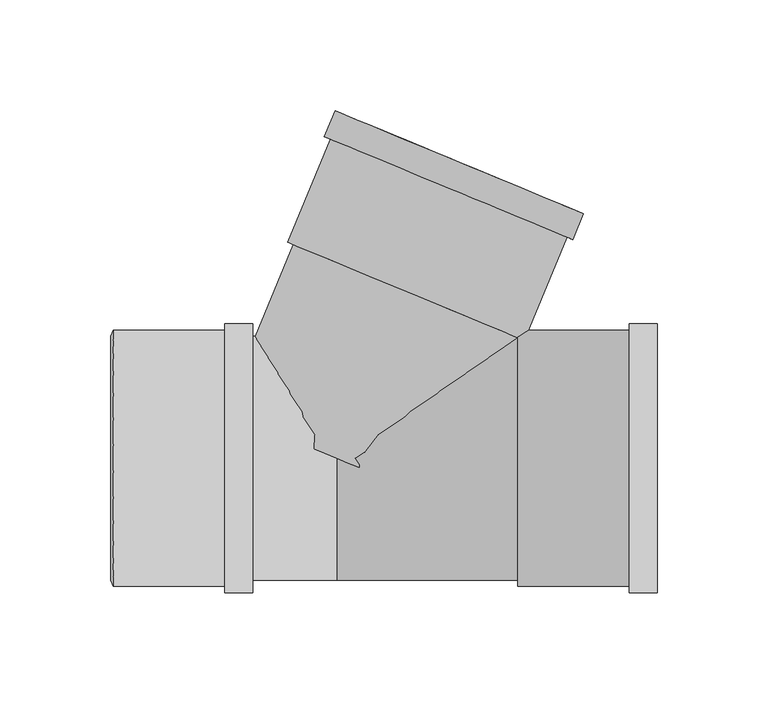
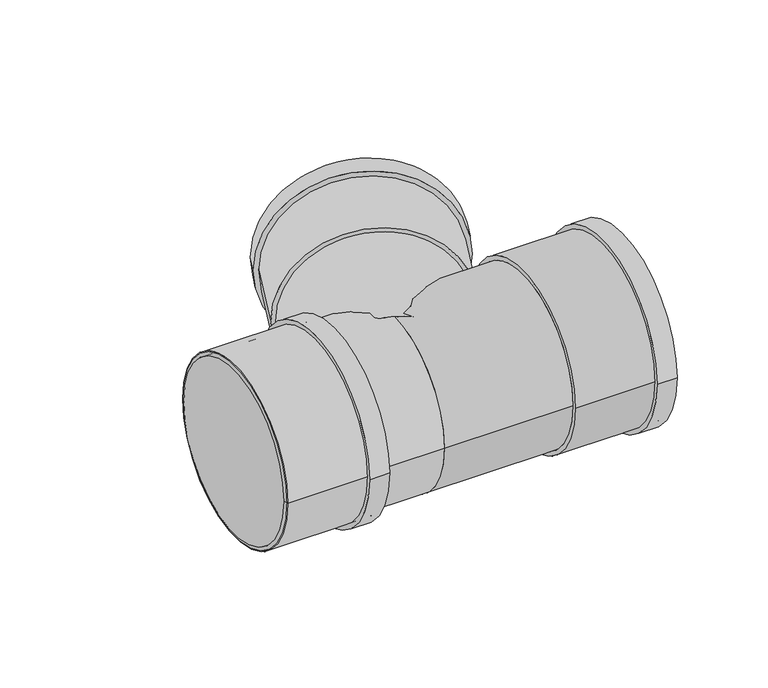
"""IFC4 building model written with IfcOpenShell, lengths in millimetres: pipe fitting geometry, Superdrain HTEA Branch : Superdrain HTEA Branch."""

from ifc_helpers import new_model, si_unit, point, frame, origin, origin_2d, place, context, project, spatial, polyline, circle_curve, trimmed, segment, composite_curve, outline, extrude, source, transform, mapped, element, save
from ifc_brep_helpers import plane_surface, revolved_surface, advanced_brep


def pipe_fitting_87a31271(model_context):
    return source(origin(), model_context, "Body", "SolidModel", [
        extrude(outline(composite_curve([segment(trimmed(circle_curve(origin_2d(), 57.75), [point((57.75, 0.0))], [point((-57.75, 0.0))], False, "CARTESIAN"), True, "CONTINUOUS"), segment(trimmed(circle_curve(origin_2d(), 57.75), [point((-57.75, 0.0))], [point((57.75, 0.0))], False, "CARTESIAN"), True, "CONTINUOUS")], self_intersect=False), holes=[composite_curve([segment(trimmed(circle_curve(origin_2d(), 55.0), [point((55.0, 0.0))], [point((-55.0, 0.0))], True, "CARTESIAN"), True, "CONTINUOUS"), segment(trimmed(circle_curve(origin_2d(), 55.0), [point((-55.0, 0.0))], [point((55.0, 0.0))], True, "CARTESIAN"), True, "CONTINUOUS")], self_intersect=False)]), frame((-100.9, 0.0, 0.0), z_axis=(1.0, 0.0, 0.0), x_axis=(0.0, 1.0, 0.0)), (0.0, 0.0, 1.0), 63.0),
        extrude(outline(composite_curve([segment(trimmed(circle_curve(origin_2d(), 60.6375), [point((60.6375, 0.0))], [point((-60.6375, 0.0))], False, "CARTESIAN"), True, "CONTINUOUS"), segment(trimmed(circle_curve(origin_2d(), 60.6375), [point((-60.6375, 0.0))], [point((60.6375, 0.0))], False, "CARTESIAN"), True, "CONTINUOUS")], self_intersect=False), holes=[composite_curve([segment(trimmed(circle_curve(origin_2d(), 55.0), [point((55.0, 0.0))], [point((-55.0, 0.0))], True, "CARTESIAN"), True, "CONTINUOUS"), segment(trimmed(circle_curve(origin_2d(), 55.0), [point((-55.0, 0.0))], [point((55.0, 0.0))], True, "CARTESIAN"), True, "CONTINUOUS")], self_intersect=False)]), frame((-50.5, 0.0, 0.0), z_axis=(1.0, 0.0, 0.0), x_axis=(0.0, 1.0, 0.0)), (0.0, 0.0, 1.0), 12.6),
        advanced_brep(
        [(-101.9, 55.0, 0.0), (-101.9, -55.0, 0.0), (-100.9, 57.75, 0.0), (-100.9, -57.75, 0.0)],
        [
            (0, 1, circle_curve(frame((-101.9, 0.0, 0.0), z_axis=(-1.0, 0.0, 0.0), x_axis=(0.0, 1.0000000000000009, 0.0)), 55.0)),
            (1, 0, circle_curve(frame((-101.9, 0.0, 0.0), z_axis=(-1.0, 0.0, 0.0), x_axis=(0.0, -1.0000000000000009, 0.0)), 55.0)),
            (2, 3, circle_curve(frame((-100.9, 0.0, 0.0), z_axis=(1.0, 0.0, 0.0), x_axis=(0.0, -1.0000000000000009, 0.0)), 57.75)),
            (3, 2, circle_curve(frame((-100.9, 0.0, 0.0), z_axis=(1.0, 0.0, 0.0), x_axis=(0.0, 1.0000000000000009, 0.0)), 57.75)),
            (3, 1),
            (0, 2),
        ],
        [
            plane_surface(frame((-101.9, 0.0, 0.0), z_axis=(-1.0, 0.0, 0.0), x_axis=(0.0, 0.0, -1.0))),
            plane_surface(frame((-100.9, 0.0, 0.0), z_axis=(1.0, 0.0, 0.0), x_axis=(0.0, 0.0, -1.0))),
            revolved_surface(polyline([(-101.9, 54.99999999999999, 0.0), (-100.9, 57.75, 0.0)]), (-121.9, 0.0, 0.0), (1.0000000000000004, 0.0, 0.0)),
            revolved_surface(polyline([(-101.9, -54.99999999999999, 0.0), (-100.9, -57.75, 0.0)]), (-121.9, 0.0, 0.0), (1.0000000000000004, 0.0, 0.0)),
        ],
        [
            (0, [[1, 2]]),
            (1, [[3, 4]]),
            (2, [[-4, 5, -1, 6]]),
            (3, [[-3, -6, -2, -5]]),
        ],
    ),
        extrude(outline(composite_curve([segment(trimmed(circle_curve(origin_2d(), 57.75), [point((-57.75, 0.0))], [point((57.75, 0.0))], False, "CARTESIAN"), True, "CONTINUOUS"), segment(trimmed(circle_curve(origin_2d(), 57.75), [point((57.75, 0.0))], [point((-57.75, 0.0))], False, "CARTESIAN"), True, "CONTINUOUS")], self_intersect=False), holes=[composite_curve([segment(trimmed(circle_curve(origin_2d(), 55.0), [point((55.0, 0.0))], [point((-55.0, 0.0))], True, "CARTESIAN"), True, "CONTINUOUS"), segment(trimmed(circle_curve(origin_2d(), 55.0), [point((-55.0, 0.0))], [point((55.0, 0.0))], True, "CARTESIAN"), True, "CONTINUOUS")], self_intersect=False)]), frame((81.6, 0.0, 0.0), z_axis=(1.0, 0.0, 0.0), x_axis=(0.0, 1.0, 0.0)), (0.0, 0.0, 1.0), 63.0),
        extrude(outline(composite_curve([segment(trimmed(circle_curve(origin_2d(), 60.6375), [point((60.6375, 0.0))], [point((-60.6375, 0.0))], False, "CARTESIAN"), True, "CONTINUOUS"), segment(trimmed(circle_curve(origin_2d(), 60.6375), [point((-60.6375, 0.0))], [point((60.6375, 0.0))], False, "CARTESIAN"), True, "CONTINUOUS")], self_intersect=False), holes=[composite_curve([segment(trimmed(circle_curve(origin_2d(), 55.0), [point((55.0, 0.0))], [point((-55.0, 0.0))], True, "CARTESIAN"), True, "CONTINUOUS"), segment(trimmed(circle_curve(origin_2d(), 55.0), [point((-55.0, 0.0))], [point((55.0, 0.0))], True, "CARTESIAN"), True, "CONTINUOUS")], self_intersect=False)]), frame((132.0, 0.0, 0.0), z_axis=(1.0, 0.0, 0.0), x_axis=(0.0, 1.0, 0.0)), (0.0, 0.0, 1.0), 12.6),
        extrude(outline(composite_curve([segment(trimmed(circle_curve(origin_2d(), 55.0), [point((0.0, 55.0))], [point((0.0, -55.0))], False, "CARTESIAN"), True, "CONTINUOUS"), segment(trimmed(circle_curve(origin_2d(), 55.0), [point((0.0, -55.0))], [point((0.0, 55.0))], False, "CARTESIAN"), True, "CONTINUOUS")], self_intersect=False)), frame((0.0, 0.0, 0.0), z_axis=(0.38268343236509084, 0.9238795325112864, 0.0), x_axis=(0.0, 0.0, 1.0)), (0.0, 0.0, 1.0), 81.6),
        extrude(outline(composite_curve([segment(trimmed(circle_curve(origin_2d(), 55.0), [point((55.0, 0.0))], [point((-55.0, 0.0))], False, "CARTESIAN"), True, "CONTINUOUS"), segment(trimmed(circle_curve(origin_2d(), 55.0), [point((-55.0, 0.0))], [point((55.0, 0.0))], False, "CARTESIAN"), True, "CONTINUOUS")], self_intersect=False)), frame((-100.9, 0.0, 0.0), z_axis=(1.0, 0.0, 0.0), x_axis=(0.0, 1.0, 0.0)), (0.0, 0.0, 1.0), 100.9),
        extrude(outline(composite_curve([segment(trimmed(circle_curve(origin_2d(), 55.0), [point((-55.0, 0.0))], [point((55.0, 0.0))], False, "CARTESIAN"), True, "CONTINUOUS"), segment(trimmed(circle_curve(origin_2d(), 55.0), [point((55.0, 0.0))], [point((-55.0, 0.0))], False, "CARTESIAN"), True, "CONTINUOUS")], self_intersect=False)), frame((0.0, 0.0, 0.0), z_axis=(1.0, 0.0, 0.0), x_axis=(0.0, 1.0, 0.0)), (0.0, 0.0, 1.0), 81.6),
        extrude(outline(composite_curve([segment(trimmed(circle_curve(origin_2d(), 60.6375), [point((0.0, 60.6374999))], [point((0.0, -60.6375))], False, "CARTESIAN"), True, "CONTINUOUS"), segment(trimmed(circle_curve(origin_2d(), 60.6375), [point((0.0, -60.6375))], [point((0.0, 60.6374999))], False, "CARTESIAN"), True, "CONTINUOUS")], self_intersect=False), holes=[composite_curve([segment(trimmed(circle_curve(origin_2d(), 55.0), [point((0.0, 55.0))], [point((0.0, -55.0))], True, "CARTESIAN"), True, "CONTINUOUS"), segment(trimmed(circle_curve(origin_2d(), 55.0), [point((0.0, -55.0))], [point((0.0, 55.0))], True, "CARTESIAN"), True, "CONTINUOUS")], self_intersect=False)]), frame((50.5142131, 121.9520983, 0.0), z_axis=(0.38268343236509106, 0.9238795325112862, 0.0), x_axis=(0.0, 0.0, 1.0)), (0.0, 0.0, 1.0), 12.6),
        extrude(outline(composite_curve([segment(trimmed(circle_curve(origin_2d(), 57.75), [point((0.0, 57.75))], [point((0.0, -57.75))], False, "CARTESIAN"), True, "CONTINUOUS"), segment(trimmed(circle_curve(origin_2d(), 57.75), [point((0.0, -57.75))], [point((0.0, 57.75))], False, "CARTESIAN"), True, "CONTINUOUS")], self_intersect=False), holes=[composite_curve([segment(trimmed(circle_curve(origin_2d(), 55.0), [point((0.0, 55.0))], [point((0.0, -55.0))], True, "CARTESIAN"), True, "CONTINUOUS"), segment(trimmed(circle_curve(origin_2d(), 55.0), [point((0.0, -55.0))], [point((0.0, 55.0))], True, "CARTESIAN"), True, "CONTINUOUS")], self_intersect=False)]), frame((31.2269681, 75.3885699, 0.0), z_axis=(0.38268343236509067, 0.9238795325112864, 0.0), x_axis=(0.0, 0.0, 1.0)), (0.0, 0.0, 1.0), 63.0),
    ])


if __name__ == "__main__":
    model = new_model("IFC4")
    model_context = context("Model", 3, world=origin())
    ifc_project = project(units=[si_unit("LENGTHUNIT", "METRE", prefix="MILLI")], contexts=[model_context])
    site = spatial("IfcSite", under=ifc_project)
    building = spatial("IfcBuilding", under=site)
    placement = place(None, origin())
    pipe_fitting_shape = pipe_fitting_87a31271(model_context)
    element("IfcPipeFitting", 1, ObjectType="Superdrain HTEA Branch : Superdrain HTEA Branch", at=placement, inside=building, context=model_context, shape_type="MappedRepresentation", body=[
        mapped(pipe_fitting_shape, transform((0.0, 0.0, 0.0), x_axis=(1.0, 0.0, 0.0), y_axis=(0.0, 1.0, 0.0), z_axis=(0.0, 0.0, 1.0))),
    ])
    save(model, "model.ifc")
